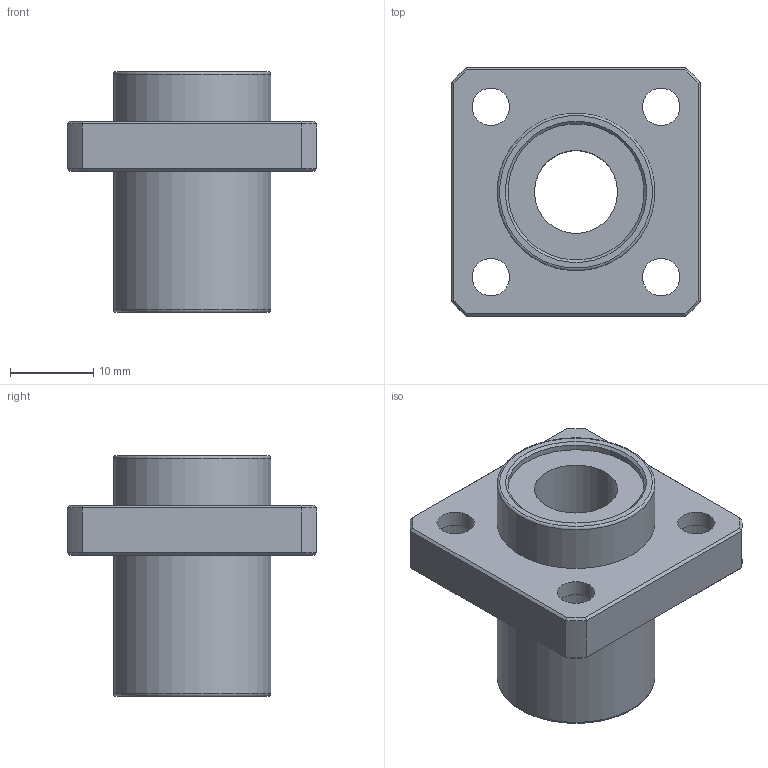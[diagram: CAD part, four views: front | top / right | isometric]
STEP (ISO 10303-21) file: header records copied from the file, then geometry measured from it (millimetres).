
FILE_DESCRIPTION(/* description */ (''),/* implementation_level */ '2;1');
FILE_NAME(/* name */ 'LMKP10UU',/* time_stamp */ '2019-07-10T08:51:15+02:00',/* author */ ('VĂ©gh MĂˇtĂ©'),/* organization */ ('Bearing Kft'),/* preprocessor_version */ 'ST-DEVELOPER v16.7',/* originating_system */ 'DEX',/* authorisation */ $);
FILE_SCHEMA (('AUTOMOTIVE_DESIGN {1 0 10303 214 3 1 1}'));
Length unit declared in the file: millimetre
Products named in the file (1): LMKP10UU
Bounding box: 30 x 30 x 29 mm (x, y, z)
Volume: 8478.2 mm3; surface area: 4955.1 mm2
Topology: 1 solids, 1 shells, 361 faces, 893 edges, 590 vertices
Faces by surface type: plane 267, bspline 62, cylinder 20, cone 10, torus 2
Full cylindrical faces by diameter (mm): 4.5 x4, 7.5 x4, 10 x1, 16.4 x2, 19 x2
Entity records: 13185 total; most frequent: CARTESIAN_POINT 5063, ORIENTED_EDGE 1738, DIRECTION 1381, EDGE_CURVE 869, LINE 677, VECTOR 677, VERTEX_POINT 586, EDGE_LOOP 447
